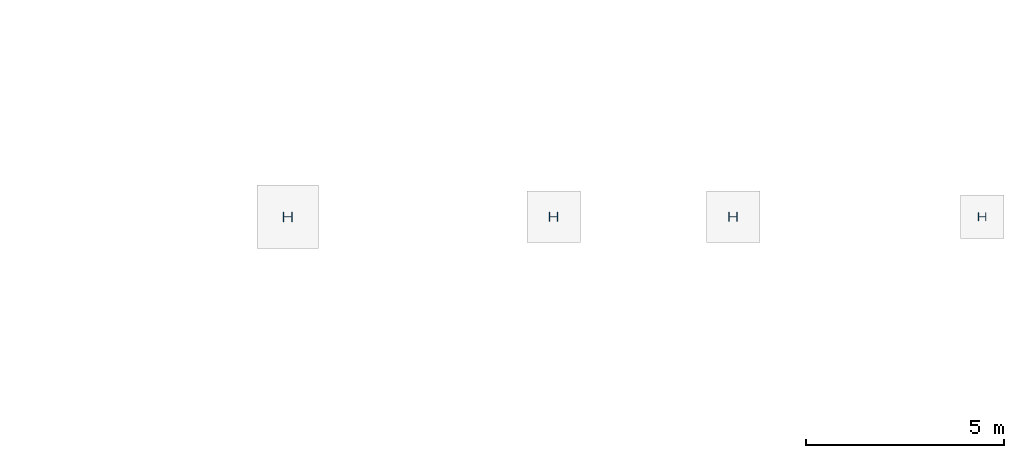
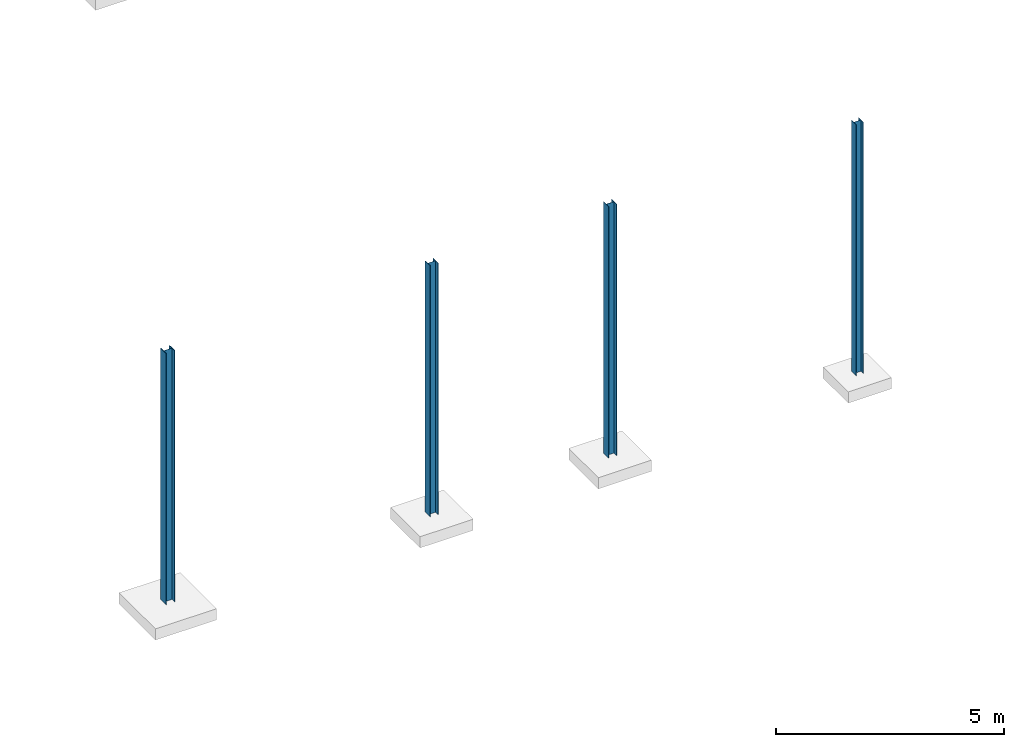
# One storey, part 34 of 59: 4 columns.
"""IFC2X3 building model written with IfcOpenShell, lengths in metres."""

from ifc_helpers import new_model, entity, si_unit, converted_unit, derived_unit, frame, origin, origin_with_axes, place, context, subcontext, project, spatial, polyline, outline, extrude, material, element, save


model = new_model("IFC2X3")

# Units and contexts
model_context = context("Model", 3, precision=1e-05, world=origin())
body_context = subcontext(model_context, "Body", "Model", "MODEL_VIEW")
ifc_project = project(units=[si_unit("LENGTHUNIT", "METRE"), si_unit("AREAUNIT", "SQUARE_METRE"), si_unit("VOLUMEUNIT", "CUBIC_METRE"), si_unit("MASSUNIT", "GRAM", prefix="KILO"), converted_unit("PLANEANGLEUNIT", "DEGREE", entity("IfcPlaneAngleMeasure", 0.0174532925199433), si_unit("PLANEANGLEUNIT", "RADIAN"), dimensions=[0, 0, 0, 0, 0, 0, 0]), derived_unit("THERMALTRANSMITTANCEUNIT", [(si_unit("POWERUNIT", "WATT"), 1), (si_unit("THERMODYNAMICTEMPERATUREUNIT", "KELVIN"), -1), (si_unit("LENGTHUNIT", "METRE"), -2)]), derived_unit("VOLUMETRICFLOWRATEUNIT", [(si_unit("LENGTHUNIT", "METRE"), 3), (converted_unit("TIMEUNIT", "hour", entity("IfcTimeMeasure", 3600.0), si_unit("TIMEUNIT", "SECOND"), dimensions=[0, 0, 1, 0, 0, 0, 0]), -1), (si_unit("LENGTHUNIT", "METRE"), -1)])], contexts=[model_context])

# Site, building, storey
site_placement = place(None, origin())
site = spatial("IfcSite", under=ifc_project, at=site_placement, Name="TWP_Speiseverteilzentrum SBW VZ II", CompositionType="ELEMENT")
building_placement = place(site_placement, origin())
building = spatial("IfcBuilding", under=site, at=building_placement, Name="Speiseverteilzentrum SBW VZ II", CompositionType="ELEMENT")
storey_placement = place(building_placement, frame((0.0, 0.0, 1.7307)))
storey = spatial("IfcBuildingStorey", under=building, at=storey_placement, Name="EG_Produktion_FFB", CompositionType="ELEMENT", Elevation=1.7307)

# Columns
ifc_material_1 = material(Name="S235")
column_1_placement = place(storey_placement, frame((118.98, 30.0000000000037, -1.225)))
element("IfcColumn", 1, at=column_1_placement, inside=storey, material=ifc_material_1, Name="Stahlstütze", context=body_context, shape_type="SweptSolid", body=[
    extrude(outline(polyline([(0.19, 0.0), (0.19, 0.2), (0.18, 0.2), (0.18, 0.10325), (0.01, 0.10325), (0.01, 0.2), (0.0, 0.2), (0.0, 0.0), (0.01, 0.0), (0.01, 0.09675), (0.18, 0.09675), (0.18, 0.0), (0.19, 0.0)])), origin_with_axes(), (0.0, 0.0, 1.0), 6.7443),
])
ifc_material_2 = material(Name="S235")
column_2_placement = place(storey_placement, frame((112.695, 29.9900000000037, -1.225)))
element("IfcColumn", 2, at=column_2_placement, inside=storey, material=ifc_material_2, Name="Stahlstütze", context=body_context, shape_type="SweptSolid", body=[
    extrude(outline(polyline([(0.21, 0.0), (0.21, 0.22), (0.199, 0.22), (0.199, 0.1135), (0.011, 0.1135), (0.011, 0.22), (0.0, 0.22), (0.0, 0.0), (0.011, 0.0), (0.011, 0.1065), (0.199, 0.1065), (0.199, 0.0), (0.21, 0.0)])), origin_with_axes(), (0.0, 0.0, 1.0), 6.7443),
])
ifc_material_3 = material(Name="S235")
column_3_placement = place(storey_placement, frame((108.17, 29.9900000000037, -1.225)))
element("IfcColumn", 3, at=column_3_placement, inside=storey, material=ifc_material_3, Name="Stahlstütze", context=body_context, shape_type="SweptSolid", body=[
    extrude(outline(polyline([(0.21, 0.0), (0.21, 0.22), (0.199, 0.22), (0.199, 0.1135), (0.011, 0.1135), (0.011, 0.22), (0.0, 0.22), (0.0, 0.0), (0.011, 0.0), (0.011, 0.1065), (0.199, 0.1065), (0.199, 0.0), (0.21, 0.0)])), origin_with_axes(), (0.0, 0.0, 1.0), 6.7443),
])
ifc_material_4 = material(Name="S235")
column_4_placement = place(storey_placement, frame((101.46, 29.9797343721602, -1.225)))
element("IfcColumn", 4, at=column_4_placement, inside=storey, material=ifc_material_4, Name="Stahlstütze", context=body_context, shape_type="SweptSolid", body=[
    extrude(outline(polyline([(0.23, 0.0), (0.23, 0.24), (0.218, 0.24), (0.218, 0.12375), (0.012, 0.12375), (0.012, 0.24), (0.0, 0.24), (0.0, 0.0), (0.012, 0.0), (0.012, 0.11625), (0.218, 0.11625), (0.218, 0.0), (0.23, 0.0)])), origin_with_axes(), (0.0, 0.0, 1.0), 6.7443),
])

save(model, "model.ifc")
